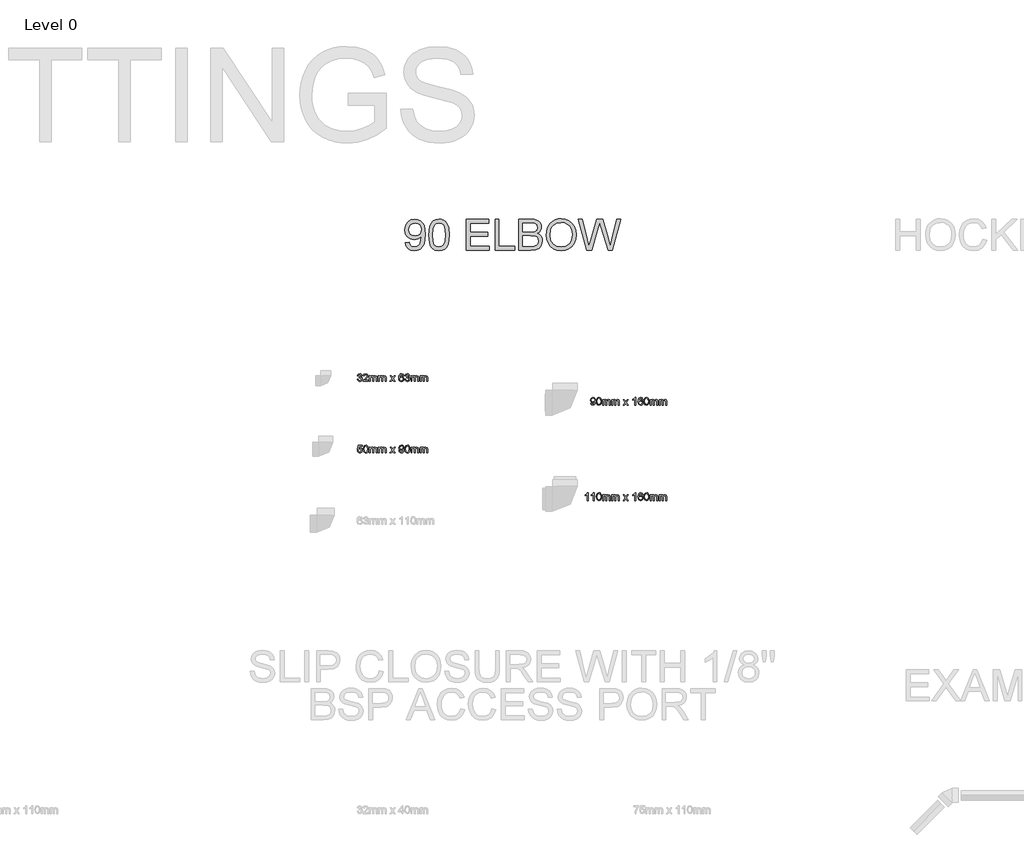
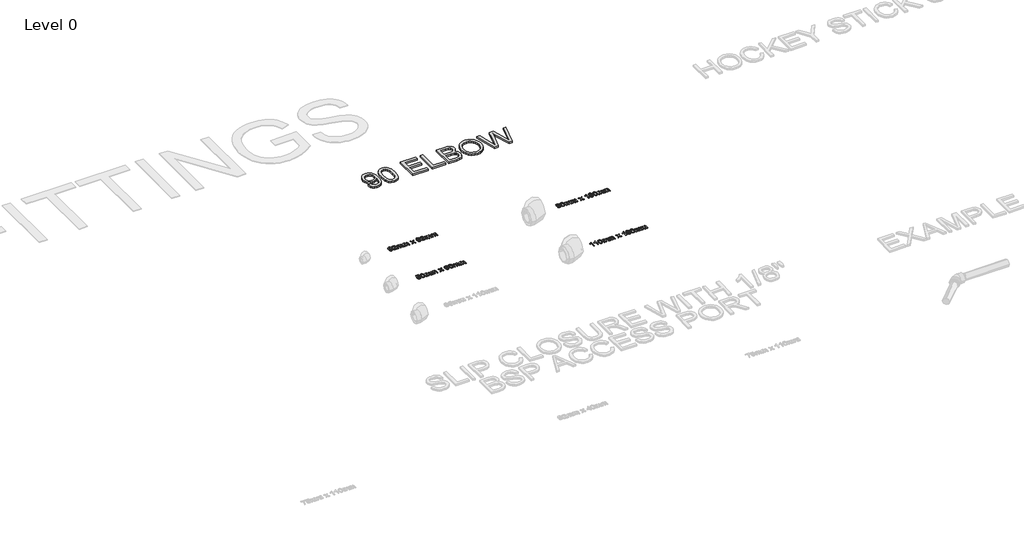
# One storey, part 17 of 21: 5 proxies.
"""IFC4 building model written with IfcOpenShell, lengths in millimetres."""

from ifc_helpers import new_model, si_unit, origin, origin_with_axes, place, context, project, spatial, polyline, outline, extrude, element, save

model = new_model("IFC4")

# Units and contexts
model_context = context("Model", 3, world=origin())
ifc_project = project(units=[si_unit("LENGTHUNIT", "METRE", prefix="MILLI")], contexts=[model_context])

# Site, building, storey
site = spatial("IfcSite", under=ifc_project)
building = spatial("IfcBuilding", under=site)
storey = spatial("IfcBuildingStorey", under=building, Name="Level 0", Elevation=0.0)

# Proxies
placement = place(None, origin())
element("IfcBuildingElementProxy", 1, Name="200mm Arial", ObjectType="200mm Arial", at=placement, inside=storey, context=model_context, shape_type="SweptSolid", body=[
    extrude(outline(polyline([(-2928.8657011, -1502.983108), (-2903.7516236, -1499.8438483), (-2899.459667, -1514.0992756), (-2892.4699091, -1523.8052289), (-2882.9540281, -1529.3786412), (-2871.0837024, -1531.2364452), (-2850.7520908, -1526.4539793), (-2836.9687787, -1513.6762113), (-2828.7527475, -1491.8485463), (-2825.1229785, -1462.7122923), (-2825.2701313, -1457.807199), (-2833.9705405, -1468.4267259), (-2845.3564882, -1476.8389609), (-2858.6063714, -1482.3204026), (-2872.8985869, -1484.1475499), (-2895.7992411, -1479.683915), (-2914.8616598, -1466.2930104), (-2927.7191356, -1445.6057795), (-2932.0049608, -1419.2531659), (-2927.5106691, -1392.0298983), (-2914.027794, -1370.6927425), (-2893.7758901, -1356.8971677), (-2868.9745123, -1352.2986428), (-2850.2431874, -1354.9228677), (-2833.1918569, -1362.7955424), (-2818.9302982, -1375.5242594), (-2808.5682887, -1392.7166113), (-2802.2591125, -1416.4817882), (-2800.1560537, -1448.9289802), (-2802.2529811, -1483.3320781), (-2808.5437632, -1509.923815), (-2818.9732178, -1529.9059387), (-2833.4861625, -1544.4801971), (-2851.457198, -1553.3829414), (-2872.2609248, -1556.3505228), (-2893.7329706, -1552.8495125), (-2910.8640088, -1542.3464815), (-2922.8446991, -1525.5036175), (-2928.8657011, -1502.983108)]), holes=[polyline([(-2825.2701313, -1418.6645547), (-2827.9801953, -1401.6438811), (-2836.1103874, -1388.547282), (-2848.7287398, -1380.1963608), (-2864.9032849, -1377.4127203), (-2881.6787039, -1380.4109586), (-2895.1186594, -1389.4056734), (-2903.9478273, -1403.1705914), (-2906.8908833, -1420.4794392), (-2904.1072428, -1435.9979281), (-2895.7563215, -1448.3158435), (-2882.6474598, -1456.3540651), (-2865.5899979, -1459.0334723), (-2849.5442116, -1456.3540651), (-2836.6254222, -1448.3158435), (-2828.108954, -1435.5442069), (-2825.2701313, -1418.6645547)])]), origin_with_axes(), (0.0, 0.0, 1.0), 15.0),
    extrude(outline(polyline([(-2778.1812359, -1454.3736337), (-2776.3356945, -1422.214616), (-2770.7990705, -1396.5671095), (-2761.6265461, -1377.038707), (-2748.8733036, -1363.2370008), (-2732.4473725, -1355.0332323), (-2712.2567824, -1352.2986428), (-2696.7812131, -1353.9173236), (-2682.9243246, -1358.7733659), (-2671.3360418, -1366.6766974), (-2662.6662894, -1377.4372458), (-2650.8940656, -1407.162111), (-2646.3323288, -1454.3736337), (-2648.1594761, -1486.3487105), (-2653.6409178, -1511.9349032), (-2662.7582599, -1531.4816999), (-2675.4931083, -1545.3385884), (-2691.9558276, -1553.5975392), (-2712.2567824, -1556.3505228), (-2738.3518785, -1551.5680568), (-2758.1684553, -1537.220659), (-2766.9240468, -1522.091512), (-2773.1780408, -1503.2406254), (-2778.1812359, -1454.3736337)]), holes=[polyline([(-2753.0671583, -1454.3245828), (-2750.1241024, -1493.8289777), (-2741.2949345, -1516.6928437), (-2728.1492845, -1527.6005449), (-2712.2567824, -1531.2364452), (-2696.3642802, -1527.5882821), (-2683.2186302, -1516.6437928), (-2674.3894623, -1493.767664), (-2671.4464064, -1454.3245828), (-2674.2913604, -1415.709236), (-2682.8262227, -1392.6675604), (-2695.9473472, -1381.2264303), (-2712.5510879, -1377.4127203), (-2728.2719119, -1380.7727092), (-2740.902527, -1390.8526759), (-2750.0260005, -1415.3290913), (-2753.0671583, -1454.3245828)])]), origin_with_axes(), (0.0, 0.0, 1.0), 15.0),
    extrude(outline(polyline([(-2536.4582396, -1553.2112631), (-2536.4582396, -1352.2986428), (-2392.0522937, -1352.2986428), (-2392.0522937, -1377.4127203), (-2511.3441621, -1377.4127203), (-2511.3441621, -1437.0586545), (-2398.3308131, -1437.0586545), (-2398.3308131, -1462.172732), (-2511.3441621, -1462.172732), (-2511.3441621, -1528.0971856), (-2388.9130341, -1528.0971856), (-2388.9130341, -1553.2112631), (-2536.4582396, -1553.2112631)])), origin_with_axes(), (0.0, 0.0, 1.0), 15.0),
    extrude(outline(polyline([(-2351.2419178, -1553.2112631), (-2351.2419178, -1352.2986428), (-2326.1278402, -1352.2986428), (-2326.1278402, -1528.0971856), (-2225.6715301, -1528.0971856), (-2225.6715301, -1553.2112631), (-2351.2419178, -1553.2112631)])), origin_with_axes(), (0.0, 0.0, 1.0), 15.0),
    extrude(outline(polyline([(-2197.4181928, -1553.2112631), (-2197.4181928, -1352.2986428), (-2120.751585, -1352.2986428), (-2099.6658153, -1353.7763021), (-2083.2030961, -1358.2092802), (-2070.5847436, -1365.7079415), (-2061.0320745, -1376.3826507), (-2055.0172039, -1388.9396895), (-2053.012247, -1402.0853395), (-2054.6983728, -1414.1825257), (-2059.7567502, -1425.5562108), (-2068.2241675, -1435.5074187), (-2080.1374128, -1443.3371739), (-2065.9065109, -1450.7683902), (-2055.3912172, -1462.0746302), (-2048.8981, -1476.5078671), (-2046.7337276, -1493.3200743), (-2052.644365, -1520.3226127), (-2067.2860684, -1539.5505783), (-2089.1382589, -1549.7531723), (-2121.3401962, -1553.2112631), (-2197.4181928, -1553.2112631)]), holes=[polyline([(-2172.3041153, -1433.9193948), (-2126.4414932, -1433.9193948), (-2099.659684, -1431.7611537), (-2083.5464526, -1422.466002), (-2078.1263245, -1406.107516), (-2083.1785706, -1389.7245044), (-2097.6485957, -1380.0369452), (-2129.9241095, -1377.4127203), (-2172.3041153, -1377.4127203), (-2172.3041153, -1433.9193948)]), polyline([(-2172.3041153, -1528.0971856), (-2120.800636, -1528.0971856), (-2102.1612815, -1527.1161669), (-2086.3914067, -1521.6469879), (-2075.943558, -1510.4879007), (-2071.8478051, -1493.5653289), (-2076.6547966, -1474.0430577), (-2082.95171, -1466.9858548), (-2092.2284677, -1462.3934612), (-2123.2531826, -1459.0334723), (-2172.3041153, -1459.0334723), (-2172.3041153, -1528.0971856)])]), origin_with_axes(), (0.0, 0.0, 1.0), 15.0),
    extrude(outline(polyline([(-2021.6196501, -1455.4037033), (-2019.945787, -1431.8377958), (-2014.9241978, -1410.975821), (-2006.5548824, -1392.8177789), (-1994.8378408, -1377.3636694), (-1980.4751146, -1365.0242941), (-1964.1687452, -1356.2104547), (-1945.9187325, -1350.922151), (-1925.7250767, -1349.1593831), (-1899.3724631, -1352.4703211), (-1875.7421763, -1362.4031349), (-1856.1218032, -1378.2588489), (-1841.7989308, -1399.3384872), (-1833.0433393, -1424.624243), (-1830.1248088, -1453.0983095), (-1833.1966235, -1481.9525206), (-1842.4120675, -1507.5938957), (-1857.2622374, -1528.7103222), (-1877.2382297, -1543.9896877), (-1900.6661814, -1553.260314), (-1925.8722295, -1556.3505228), (-1952.6295132, -1552.9353516), (-1976.3946901, -1542.689838), (-1995.9660123, -1526.5398184), (-2010.1417318, -1505.4111292), (-2018.7501705, -1481.1002607), (-2021.6196501, -1455.4037033)]), holes=[polyline([(-1996.5055725, -1455.648958), (-1991.4839833, -1487.0783431), (-1976.4192156, -1511.027461), (-1953.7760788, -1526.1841992), (-1926.0193823, -1531.2364452), (-1897.8580155, -1526.1351482), (-1875.1780905, -1510.8312572), (-1866.4546887, -1499.5587398), (-1860.2236874, -1486.1463754), (-1855.2388864, -1452.9021057), (-1857.372602, -1430.6697705), (-1863.7737487, -1411.4540676), (-1874.2767796, -1395.7393751), (-1888.7161479, -1384.0100708), (-1906.1353604, -1376.7076132), (-1925.5779239, -1374.2734606), (-1952.592725, -1378.9639561), (-1975.5608243, -1393.0354424), (-1984.7241516, -1403.9845303), (-1991.2693855, -1418.0698122), (-1996.5055725, -1455.648958)])]), origin_with_axes(), (0.0, 0.0, 1.0), 15.0),
    extrude(outline(polyline([(-1759.6386186, -1553.2112631), (-1814.4285104, -1352.2986428), (-1788.5296179, -1352.2986428), (-1756.7446135, -1484.3437536), (-1746.934427, -1525.1050787), (-1736.4375274, -1489.0526431), (-1696.6081701, -1352.2986428), (-1659.2804103, -1352.2986428), (-1630.34036, -1451.4305778), (-1608.8070006, -1525.1050787), (-1599.2911196, -1485.520976), (-1567.2118096, -1352.2986428), (-1541.3129172, -1352.2986428), (-1596.1518599, -1553.2112631), (-1622.9827201, -1553.2112631), (-1671.150736, -1398.2103158), (-1677.8707138, -1376.5788545), (-1685.4245574, -1402.6248997), (-1729.3251422, -1553.2112631), (-1759.6386186, -1553.2112631)])), origin_with_axes(), (0.0, 0.0, 1.0), 15.0),
])
element("IfcBuildingElementProxy", 2, Name="50mm", ObjectType="50mm", at=placement, inside=storey, context=model_context, shape_type="SweptSolid", body=[
    extrude(outline(polyline([(-3238.2285688, -2383.2605095), (-3231.9500494, -2382.4756946), (-3228.4858273, -2389.0853078), (-3222.0049728, -2391.1086588), (-3214.3775528, -2388.3250183), (-3211.5448614, -2381.4333623), (-3214.3530273, -2374.9402451), (-3221.4899381, -2372.3712025), (-3225.8922593, -2373.0579155), (-3225.1932835, -2366.7793962), (-3217.0630914, -2365.0503508), (-3213.8993062, -2359.5075954), (-3216.1924373, -2354.5963707), (-3222.1030747, -2352.6527275), (-3228.0872885, -2354.6147648), (-3231.1652345, -2360.5008768), (-3237.4437539, -2359.7160618), (-3232.3056687, -2349.8690871), (-3222.3238039, -2346.3742082), (-3214.7515662, -2348.0971222), (-3209.4540654, -2352.8060117), (-3207.6207868, -2359.1397134), (-3209.3620949, -2364.9277234), (-3214.5124429, -2369.08479), (-3207.6698378, -2373.3767466), (-3205.2663421, -2381.5437269), (-3210.0733335, -2392.7763905), (-3222.225702, -2397.3871782), (-3233.2376364, -2393.4508408), (-3238.2285688, -2383.2605095)])), origin_with_axes(), (0.0, 0.0, 1.0), 5.0),
    extrude(outline(polyline([(-3167.5952258, -2390.3238438), (-3167.5952258, -2396.6023632), (-3200.5574525, -2396.6023632), (-3199.8830022, -2392.2736184), (-3196.0692922, -2385.6088229), (-3188.2088802, -2378.3308908), (-3177.3686241, -2367.8707794), (-3174.6585601, -2360.7583942), (-3177.2153399, -2355.0010409), (-3183.8923981, -2352.6527275), (-3190.8514992, -2354.9458586), (-3193.4941182, -2361.2856917), (-3199.7726376, -2360.5008768), (-3194.9595148, -2349.9917144), (-3183.7575081, -2346.3742082), (-3172.5187131, -2350.3963846), (-3168.3800407, -2360.3782494), (-3169.4959494, -2366.3318064), (-3173.2054262, -2372.4876984), (-3182.200141, -2381.0900058), (-3189.4228908, -2387.1294019), (-3192.2555822, -2390.3238438), (-3167.5952258, -2390.3238438)])), origin_with_axes(), (0.0, 0.0, 1.0), 5.0),
    extrude(outline(polyline([(-3159.7470765, -2396.6023632), (-3159.7470765, -2359.7160618), (-3153.4685571, -2359.7160618), (-3153.4685571, -2365.7861148), (-3149.1520751, -2360.8135765), (-3143.0084457, -2358.9312469), (-3136.7176636, -2360.8503647), (-3133.2595729, -2366.2275732), (-3128.360611, -2360.7553285), (-3122.1740621, -2358.9312469), (-3113.9641622, -2361.9662734), (-3111.0885513, -2371.3166074), (-3111.0885513, -2396.6023632), (-3117.3670707, -2396.6023632), (-3117.3670707, -2374.0144087), (-3117.9495505, -2368.7720903), (-3120.0587406, -2366.190785), (-3123.6455901, -2365.2097663), (-3129.8198762, -2367.7236266), (-3132.2785542, -2375.7802423), (-3132.2785542, -2396.6023632), (-3138.5570736, -2396.6023632), (-3138.5570736, -2373.3154329), (-3140.0102075, -2367.2331173), (-3144.7742793, -2365.2097663), (-3149.4218552, -2366.558667), (-3152.512064, -2370.507267), (-3153.4685571, -2377.999797), (-3153.4685571, -2396.6023632), (-3159.7470765, -2396.6023632)])), origin_with_axes(), (0.0, 0.0, 1.0), 5.0),
    extrude(outline(polyline([(-3101.6707722, -2396.6023632), (-3101.6707722, -2359.7160618), (-3095.3922528, -2359.7160618), (-3095.3922528, -2365.7861148), (-3091.0757708, -2360.8135765), (-3084.9321414, -2358.9312469), (-3078.6413593, -2360.8503647), (-3075.1832686, -2366.2275732), (-3070.2843067, -2360.7553285), (-3064.0977578, -2358.9312469), (-3055.8878579, -2361.9662734), (-3053.012247, -2371.3166074), (-3053.012247, -2396.6023632), (-3059.2907664, -2396.6023632), (-3059.2907664, -2374.0144087), (-3059.8732462, -2368.7720903), (-3061.9824363, -2366.190785), (-3065.5692858, -2365.2097663), (-3071.7435719, -2367.7236266), (-3074.2022499, -2375.7802423), (-3074.2022499, -2396.6023632), (-3080.4807693, -2396.6023632), (-3080.4807693, -2373.3154329), (-3081.9339032, -2367.2331173), (-3086.697975, -2365.2097663), (-3091.3455509, -2366.558667), (-3094.4357597, -2370.507267), (-3095.3922528, -2377.999797), (-3095.3922528, -2396.6023632), (-3101.6707722, -2396.6023632)])), origin_with_axes(), (0.0, 0.0, 1.0), 5.0),
    extrude(outline(polyline([(-3027.8981695, -2396.6023632), (-3014.4827394, -2378.0611107), (-3027.1133545, -2359.7160618), (-3019.5595109, -2359.7160618), (-3013.4649325, -2368.5452297), (-3010.6199784, -2372.714559), (-3008.155169, -2369.3055192), (-3001.2144621, -2359.7160618), (-2993.6606184, -2359.7160618), (-3006.9288957, -2378.0611107), (-2994.1511278, -2396.6023632), (-3001.7049714, -2396.6023632), (-3009.3937051, -2385.4555388), (-3010.8039194, -2383.4199251), (-3020.3443258, -2396.6023632), (-3027.8981695, -2396.6023632)])), origin_with_axes(), (0.0, 0.0, 1.0), 5.0),
    extrude(outline(polyline([(-2938.4292682, -2359.7160618), (-2944.7077876, -2360.5008768), (-2947.0867578, -2355.2646897), (-2953.37754, -2352.6527275), (-2959.0429227, -2354.1733065), (-2963.3287479, -2359.8816087), (-2965.1129756, -2371.0713528), (-2959.5763516, -2366.0620263), (-2952.7153524, -2364.4249514), (-2942.0467745, -2368.900849), (-2937.6444533, -2380.4646064), (-2939.7168552, -2389.1282274), (-2945.4190261, -2395.2595939), (-2953.6473201, -2397.3871782), (-2966.4434822, -2391.7463209), (-2970.1544918, -2384.2783164), (-2971.391495, -2373.1560174), (-2970.0180689, -2360.6510953), (-2965.8977905, -2352.1009045), (-2960.2722617, -2347.8058823), (-2952.9851325, -2346.3742082), (-2943.0645814, -2349.918138), (-2938.4292682, -2359.7160618)]), holes=[polyline([(-2965.1129756, -2380.3665045), (-2963.6598417, -2385.8050267), (-2959.7970808, -2389.7536268), (-2954.1378294, -2391.1086588), (-2946.73727, -2388.3004929), (-2943.9229727, -2380.6730728), (-2946.7004818, -2373.3706152), (-2954.3953468, -2370.7034708), (-2961.99211, -2373.3706152), (-2965.1129756, -2380.3665045)])]), origin_with_axes(), (0.0, 0.0, 1.0), 5.0),
    extrude(outline(polyline([(-2932.1507488, -2383.2605095), (-2925.8722295, -2382.4756946), (-2922.4080073, -2389.0853078), (-2915.9271529, -2391.1086588), (-2908.2997328, -2388.3250183), (-2905.4670415, -2381.4333623), (-2908.2752074, -2374.9402451), (-2915.4121181, -2372.3712025), (-2919.8144393, -2373.0579155), (-2919.1154635, -2366.7793962), (-2910.9852714, -2365.0503508), (-2907.8214862, -2359.5075954), (-2910.1146173, -2354.5963707), (-2916.0252547, -2352.6527275), (-2922.0094685, -2354.6147648), (-2925.0874145, -2360.5008768), (-2931.3659339, -2359.7160618), (-2926.2278487, -2349.8690871), (-2916.2459839, -2346.3742082), (-2908.6737462, -2348.0971222), (-2903.3762455, -2352.8060117), (-2901.5429668, -2359.1397134), (-2903.284275, -2364.9277234), (-2908.4346229, -2369.08479), (-2901.5920178, -2373.3767466), (-2899.1885221, -2381.5437269), (-2903.9955135, -2392.7763905), (-2916.1478821, -2397.3871782), (-2927.1598164, -2393.4508408), (-2932.1507488, -2383.2605095)])), origin_with_axes(), (0.0, 0.0, 1.0), 5.0),
    extrude(outline(polyline([(-2892.1251878, -2396.6023632), (-2892.1251878, -2359.7160618), (-2885.8466684, -2359.7160618), (-2885.8466684, -2365.7861148), (-2881.5301863, -2360.8135765), (-2875.386557, -2358.9312469), (-2869.0957749, -2360.8503647), (-2865.6376841, -2366.2275732), (-2860.7387222, -2360.7553285), (-2854.5521733, -2358.9312469), (-2846.3422735, -2361.9662734), (-2843.4666625, -2371.3166074), (-2843.4666625, -2396.6023632), (-2849.7451819, -2396.6023632), (-2849.7451819, -2374.0144087), (-2850.3276618, -2368.7720903), (-2852.4368519, -2366.190785), (-2856.0237013, -2365.2097663), (-2862.1979875, -2367.7236266), (-2864.6566655, -2375.7802423), (-2864.6566655, -2396.6023632), (-2870.9351848, -2396.6023632), (-2870.9351848, -2373.3154329), (-2872.3883187, -2367.2331173), (-2877.1523906, -2365.2097663), (-2881.7999664, -2366.558667), (-2884.8901752, -2370.507267), (-2885.8466684, -2377.999797), (-2885.8466684, -2396.6023632), (-2892.1251878, -2396.6023632)])), origin_with_axes(), (0.0, 0.0, 1.0), 5.0),
    extrude(outline(polyline([(-2834.0488835, -2396.6023632), (-2834.0488835, -2359.7160618), (-2827.7703641, -2359.7160618), (-2827.7703641, -2365.7861148), (-2823.453882, -2360.8135765), (-2817.3102527, -2358.9312469), (-2811.0194706, -2360.8503647), (-2807.5613798, -2366.2275732), (-2802.6624179, -2360.7553285), (-2796.475869, -2358.9312469), (-2788.2659692, -2361.9662734), (-2785.3903582, -2371.3166074), (-2785.3903582, -2396.6023632), (-2791.6688776, -2396.6023632), (-2791.6688776, -2374.0144087), (-2792.2513574, -2368.7720903), (-2794.3605476, -2366.190785), (-2797.947397, -2365.2097663), (-2804.1216832, -2367.7236266), (-2806.5803612, -2375.7802423), (-2806.5803612, -2396.6023632), (-2812.8588805, -2396.6023632), (-2812.8588805, -2373.3154329), (-2814.3120144, -2367.2331173), (-2819.0760863, -2365.2097663), (-2823.7236621, -2366.558667), (-2826.8138709, -2370.507267), (-2827.7703641, -2377.999797), (-2827.7703641, -2396.6023632), (-2834.0488835, -2396.6023632)])), origin_with_axes(), (0.0, 0.0, 1.0), 5.0),
])
element("IfcBuildingElementProxy", 3, Name="50mm", ObjectType="50mm", at=placement, inside=storey, context=model_context, shape_type="SweptSolid", body=[
    extrude(outline(polyline([(-3238.2285688, -2843.2605095), (-3231.9500494, -2842.4756946), (-3228.7862643, -2848.9442864), (-3222.225702, -2851.1086588), (-3214.3530273, -2848.0981578), (-3211.5448614, -2840.1089871), (-3214.1752177, -2832.6532453), (-3222.1276002, -2829.9186558), (-3227.6396987, -2831.0100391), (-3231.1652345, -2833.8427305), (-3237.4437539, -2833.0579155), (-3231.9500494, -2807.1590231), (-3207.6207868, -2807.1590231), (-3207.6207868, -2813.4375425), (-3226.8732779, -2813.4375425), (-3229.5588165, -2827.2699055), (-3220.3740293, -2823.6401365), (-3209.6380064, -2828.1405595), (-3205.2663421, -2839.7165797), (-3209.2026794, -2851.3661762), (-3214.8557994, -2855.8819277), (-3222.2502275, -2857.3871782), (-3233.3296069, -2853.5182858), (-3238.2285688, -2843.2605095)])), origin_with_axes(), (0.0, 0.0, 1.0), 5.0),
    extrude(outline(polyline([(-3199.7726376, -2831.8929559), (-3197.9270963, -2817.4413248), (-3192.4456545, -2809.1087977), (-3183.2915242, -2806.3742082), (-3175.9584098, -2807.9928889), (-3170.893901, -2812.6588589), (-3167.950845, -2820.0900752), (-3166.8104108, -2831.8929559), (-3168.6375581, -2846.2832733), (-3174.1006057, -2854.6341946), (-3183.2915242, -2857.3871782), (-3194.7694425, -2852.6047122), (-3198.5218388, -2844.1097038), (-3199.7726376, -2831.8929559)]), holes=[polyline([(-3193.4941182, -2831.8806932), (-3190.5510623, -2847.4727584), (-3183.2915242, -2851.1086588), (-3176.0319862, -2847.4604957), (-3173.0889302, -2831.8806932), (-3175.9338843, -2816.4664376), (-3183.3651006, -2812.6527275), (-3190.4529604, -2816.0127164), (-3193.4941182, -2831.8806932)])]), origin_with_axes(), (0.0, 0.0, 1.0), 5.0),
    extrude(outline(polyline([(-3159.7470765, -2856.6023632), (-3159.7470765, -2819.7160618), (-3153.4685571, -2819.7160618), (-3153.4685571, -2825.7861148), (-3149.1520751, -2820.8135765), (-3143.0084457, -2818.9312469), (-3136.7176636, -2820.8503647), (-3133.2595729, -2826.2275732), (-3128.360611, -2820.7553285), (-3122.1740621, -2818.9312469), (-3113.9641622, -2821.9662734), (-3111.0885513, -2831.3166074), (-3111.0885513, -2856.6023632), (-3117.3670707, -2856.6023632), (-3117.3670707, -2834.0144087), (-3117.9495505, -2828.7720903), (-3120.0587406, -2826.190785), (-3123.6455901, -2825.2097663), (-3129.8198762, -2827.7236266), (-3132.2785542, -2835.7802423), (-3132.2785542, -2856.6023632), (-3138.5570736, -2856.6023632), (-3138.5570736, -2833.3154329), (-3140.0102075, -2827.2331173), (-3144.7742793, -2825.2097663), (-3149.4218552, -2826.558667), (-3152.512064, -2830.507267), (-3153.4685571, -2837.999797), (-3153.4685571, -2856.6023632), (-3159.7470765, -2856.6023632)])), origin_with_axes(), (0.0, 0.0, 1.0), 5.0),
    extrude(outline(polyline([(-3101.6707722, -2856.6023632), (-3101.6707722, -2819.7160618), (-3095.3922528, -2819.7160618), (-3095.3922528, -2825.7861148), (-3091.0757708, -2820.8135765), (-3084.9321414, -2818.9312469), (-3078.6413593, -2820.8503647), (-3075.1832686, -2826.2275732), (-3070.2843067, -2820.7553285), (-3064.0977578, -2818.9312469), (-3055.8878579, -2821.9662734), (-3053.012247, -2831.3166074), (-3053.012247, -2856.6023632), (-3059.2907664, -2856.6023632), (-3059.2907664, -2834.0144087), (-3059.8732462, -2828.7720903), (-3061.9824363, -2826.190785), (-3065.5692858, -2825.2097663), (-3071.7435719, -2827.7236266), (-3074.2022499, -2835.7802423), (-3074.2022499, -2856.6023632), (-3080.4807693, -2856.6023632), (-3080.4807693, -2833.3154329), (-3081.9339032, -2827.2331173), (-3086.697975, -2825.2097663), (-3091.3455509, -2826.558667), (-3094.4357597, -2830.507267), (-3095.3922528, -2837.999797), (-3095.3922528, -2856.6023632), (-3101.6707722, -2856.6023632)])), origin_with_axes(), (0.0, 0.0, 1.0), 5.0),
    extrude(outline(polyline([(-3027.8981695, -2856.6023632), (-3014.4827394, -2838.0611107), (-3027.1133545, -2819.7160618), (-3019.5595109, -2819.7160618), (-3013.4649325, -2828.5452297), (-3010.6199784, -2832.714559), (-3008.155169, -2829.3055192), (-3001.2144621, -2819.7160618), (-2993.6606184, -2819.7160618), (-3006.9288957, -2838.0611107), (-2994.1511278, -2856.6023632), (-3001.7049714, -2856.6023632), (-3009.3937051, -2845.4555388), (-3010.8039194, -2843.4199251), (-3020.3443258, -2856.6023632), (-3027.8981695, -2856.6023632)])), origin_with_axes(), (0.0, 0.0, 1.0), 5.0),
    extrude(outline(polyline([(-2969.8218652, -2844.0453245), (-2963.5433458, -2843.2605095), (-2960.7229171, -2849.2508547), (-2955.3763655, -2851.1086588), (-2950.2934626, -2849.9130423), (-2946.8476346, -2846.7186003), (-2944.7936267, -2841.261684), (-2943.8861845, -2833.9776205), (-2948.9445619, -2837.5092877), (-2955.8300866, -2839.3364349), (-2966.3208548, -2834.8728), (-2970.6066801, -2823.1128389), (-2966.1123884, -2810.9727331), (-2954.8490679, -2806.3742082), (-2945.9034041, -2808.9984331), (-2939.747512, -2816.4787003), (-2937.6444533, -2830.5317925), (-2939.7413807, -2845.7805012), (-2945.9769805, -2854.4195967), (-2955.6706711, -2857.3871782), (-2965.3214421, -2853.8861678), (-2969.8218652, -2844.0453245)]), holes=[polyline([(-2943.9229727, -2822.9656861), (-2946.6330367, -2815.436368), (-2953.8312611, -2812.6527275), (-2961.3851047, -2815.6509658), (-2964.3281607, -2823.4194073), (-2961.5445203, -2830.3785083), (-2954.0029394, -2833.0579155), (-2946.7617954, -2830.3785083), (-2943.9229727, -2822.9656861)])]), origin_with_axes(), (0.0, 0.0, 1.0), 5.0),
    extrude(outline(polyline([(-2932.1507488, -2831.8929559), (-2930.3052075, -2817.4413248), (-2924.8237658, -2809.1087977), (-2915.6696355, -2806.3742082), (-2908.336521, -2807.9928889), (-2903.2720122, -2812.6588589), (-2900.3289563, -2820.0900752), (-2899.1885221, -2831.8929559), (-2901.0156693, -2846.2832733), (-2906.4787169, -2854.6341946), (-2915.6696355, -2857.3871782), (-2927.1475537, -2852.6047122), (-2930.8999501, -2844.1097038), (-2932.1507488, -2831.8929559)]), holes=[polyline([(-2925.8722295, -2831.8806932), (-2922.9291735, -2847.4727584), (-2915.6696355, -2851.1086588), (-2908.4100974, -2847.4604957), (-2905.4670415, -2831.8806932), (-2908.3119956, -2816.4664376), (-2915.7432119, -2812.6527275), (-2922.8310716, -2816.0127164), (-2925.8722295, -2831.8806932)])]), origin_with_axes(), (0.0, 0.0, 1.0), 5.0),
    extrude(outline(polyline([(-2892.1251878, -2856.6023632), (-2892.1251878, -2819.7160618), (-2885.8466684, -2819.7160618), (-2885.8466684, -2825.7861148), (-2881.5301863, -2820.8135765), (-2875.386557, -2818.9312469), (-2869.0957749, -2820.8503647), (-2865.6376841, -2826.2275732), (-2860.7387222, -2820.7553285), (-2854.5521733, -2818.9312469), (-2846.3422735, -2821.9662734), (-2843.4666625, -2831.3166074), (-2843.4666625, -2856.6023632), (-2849.7451819, -2856.6023632), (-2849.7451819, -2834.0144087), (-2850.3276618, -2828.7720903), (-2852.4368519, -2826.190785), (-2856.0237013, -2825.2097663), (-2862.1979875, -2827.7236266), (-2864.6566655, -2835.7802423), (-2864.6566655, -2856.6023632), (-2870.9351848, -2856.6023632), (-2870.9351848, -2833.3154329), (-2872.3883187, -2827.2331173), (-2877.1523906, -2825.2097663), (-2881.7999664, -2826.558667), (-2884.8901752, -2830.507267), (-2885.8466684, -2837.999797), (-2885.8466684, -2856.6023632), (-2892.1251878, -2856.6023632)])), origin_with_axes(), (0.0, 0.0, 1.0), 5.0),
    extrude(outline(polyline([(-2834.0488835, -2856.6023632), (-2834.0488835, -2819.7160618), (-2827.7703641, -2819.7160618), (-2827.7703641, -2825.7861148), (-2823.453882, -2820.8135765), (-2817.3102527, -2818.9312469), (-2811.0194706, -2820.8503647), (-2807.5613798, -2826.2275732), (-2802.6624179, -2820.7553285), (-2796.475869, -2818.9312469), (-2788.2659692, -2821.9662734), (-2785.3903582, -2831.3166074), (-2785.3903582, -2856.6023632), (-2791.6688776, -2856.6023632), (-2791.6688776, -2834.0144087), (-2792.2513574, -2828.7720903), (-2794.3605476, -2826.190785), (-2797.947397, -2825.2097663), (-2804.1216832, -2827.7236266), (-2806.5803612, -2835.7802423), (-2806.5803612, -2856.6023632), (-2812.8588805, -2856.6023632), (-2812.8588805, -2833.3154329), (-2814.3120144, -2827.2331173), (-2819.0760863, -2825.2097663), (-2823.7236621, -2826.558667), (-2826.8138709, -2830.507267), (-2827.7703641, -2837.999797), (-2827.7703641, -2856.6023632), (-2834.0488835, -2856.6023632)])), origin_with_axes(), (0.0, 0.0, 1.0), 5.0),
])
element("IfcBuildingElementProxy", 4, Name="50mm", ObjectType="50mm", at=placement, inside=storey, context=model_context, shape_type="SweptSolid", body=[
    extrude(outline(polyline([(-1736.586045, -2537.3786578), (-1730.3075256, -2536.5938429), (-1727.487097, -2542.584188), (-1722.1405453, -2544.4419921), (-1717.0576424, -2543.2463756), (-1713.6118144, -2540.0519336), (-1711.5578066, -2534.5950174), (-1710.6503643, -2527.3109539), (-1715.7087417, -2530.842621), (-1722.5942664, -2532.6697683), (-1733.0850346, -2528.2061334), (-1737.3708599, -2516.4461723), (-1732.8765682, -2504.3060664), (-1721.6132478, -2499.7075415), (-1712.6675839, -2502.3317664), (-1706.5116919, -2509.8120336), (-1704.4086331, -2523.8651258), (-1706.5055605, -2539.1138345), (-1712.7411603, -2547.7529301), (-1722.4348509, -2550.7205115), (-1732.0856219, -2547.2195012), (-1736.586045, -2537.3786578)]), holes=[polyline([(-1710.6871525, -2516.2990195), (-1713.3972165, -2508.7697013), (-1720.5954409, -2505.9860609), (-1728.1492845, -2508.9842991), (-1731.0923405, -2516.7527406), (-1728.3087001, -2523.7118417), (-1720.7671192, -2526.3912489), (-1713.5259752, -2523.7118417), (-1710.6871525, -2516.2990195)])]), origin_with_axes(), (0.0, 0.0, 1.0), 5.0),
    extrude(outline(polyline([(-1698.9149287, -2525.2262892), (-1697.0693873, -2510.7746582), (-1691.5879456, -2502.442131), (-1682.4338153, -2499.7075415), (-1675.1007008, -2501.3262223), (-1670.036192, -2505.9921922), (-1667.0931361, -2513.4234085), (-1665.9527019, -2525.2262892), (-1667.7798491, -2539.6166066), (-1673.2428968, -2547.9675279), (-1682.4338153, -2550.7205115), (-1693.9117335, -2545.9380455), (-1697.6641299, -2537.4430371), (-1698.9149287, -2525.2262892)]), holes=[polyline([(-1692.6364093, -2525.2140265), (-1689.6933533, -2540.8060917), (-1682.4338153, -2544.4419921), (-1675.1742772, -2540.793829), (-1672.2312213, -2525.2140265), (-1675.0761754, -2509.7997709), (-1682.5073917, -2505.9860609), (-1689.5952514, -2509.3460498), (-1692.6364093, -2525.2140265)])]), origin_with_axes(), (0.0, 0.0, 1.0), 5.0),
    extrude(outline(polyline([(-1658.8893676, -2549.9356966), (-1658.8893676, -2513.0493952), (-1652.6108482, -2513.0493952), (-1652.6108482, -2519.1194481), (-1648.2943661, -2514.1469098), (-1642.1507368, -2512.2645803), (-1635.8599547, -2514.183698), (-1632.4018639, -2519.5609065), (-1627.502902, -2514.0886618), (-1621.3163531, -2512.2645803), (-1613.1064533, -2515.2996067), (-1610.2308424, -2524.6499408), (-1610.2308424, -2549.9356966), (-1616.5093617, -2549.9356966), (-1616.5093617, -2527.3477421), (-1617.0918416, -2522.1054236), (-1619.2010317, -2519.5241183), (-1622.7878811, -2518.5430996), (-1628.9621673, -2521.0569599), (-1631.4208453, -2529.1135756), (-1631.4208453, -2549.9356966), (-1637.6993647, -2549.9356966), (-1637.6993647, -2526.6487663), (-1639.1524985, -2520.5664506), (-1643.9165704, -2518.5430996), (-1648.5641463, -2519.8920003), (-1651.654355, -2523.8406004), (-1652.6108482, -2531.3331303), (-1652.6108482, -2549.9356966), (-1658.8893676, -2549.9356966)])), origin_with_axes(), (0.0, 0.0, 1.0), 5.0),
    extrude(outline(polyline([(-1600.8130633, -2549.9356966), (-1600.8130633, -2513.0493952), (-1594.5345439, -2513.0493952), (-1594.5345439, -2519.1194481), (-1590.2180618, -2514.1469098), (-1584.0744325, -2512.2645803), (-1577.7836504, -2514.183698), (-1574.3255596, -2519.5609065), (-1569.4265977, -2514.0886618), (-1563.2400488, -2512.2645803), (-1555.030149, -2515.2996067), (-1552.1545381, -2524.6499408), (-1552.1545381, -2549.9356966), (-1558.4330574, -2549.9356966), (-1558.4330574, -2527.3477421), (-1559.0155373, -2522.1054236), (-1561.1247274, -2519.5241183), (-1564.7115768, -2518.5430996), (-1570.885863, -2521.0569599), (-1573.344541, -2529.1135756), (-1573.344541, -2549.9356966), (-1579.6230604, -2549.9356966), (-1579.6230604, -2526.6487663), (-1581.0761942, -2520.5664506), (-1585.8402661, -2518.5430996), (-1590.4878419, -2519.8920003), (-1593.5780507, -2523.8406004), (-1594.5345439, -2531.3331303), (-1594.5345439, -2549.9356966), (-1600.8130633, -2549.9356966)])), origin_with_axes(), (0.0, 0.0, 1.0), 5.0),
    extrude(outline(polyline([(-1527.0404605, -2549.9356966), (-1513.6250304, -2531.394444), (-1526.2556456, -2513.0493952), (-1518.701802, -2513.0493952), (-1512.6072236, -2521.8785631), (-1509.7622695, -2526.0478923), (-1507.2974601, -2522.6388525), (-1500.3567531, -2513.0493952), (-1492.8029095, -2513.0493952), (-1506.0711868, -2531.394444), (-1493.2934188, -2549.9356966), (-1500.8472625, -2549.9356966), (-1508.5359962, -2538.7888721), (-1509.9462105, -2536.7532584), (-1519.4866169, -2549.9356966), (-1527.0404605, -2549.9356966)])), origin_with_axes(), (0.0, 0.0, 1.0), 5.0),
    extrude(outline(polyline([(-1446.2045234, -2549.9356966), (-1452.4830428, -2549.9356966), (-1452.4830428, -2510.7930523), (-1458.4304684, -2515.0298266), (-1465.0400816, -2518.1997431), (-1465.0400816, -2512.2645803), (-1455.8369003, -2506.3907311), (-1450.2512254, -2499.7075415), (-1446.2045234, -2499.7075415), (-1446.2045234, -2549.9356966)])), origin_with_axes(), (0.0, 0.0, 1.0), 5.0),
    extrude(outline(polyline([(-1399.1156281, -2513.0493952), (-1405.3941474, -2513.8342101), (-1407.7731177, -2508.598023), (-1414.0638998, -2505.9860609), (-1419.7292825, -2507.5066398), (-1424.0151078, -2513.2149421), (-1425.7993354, -2524.4046861), (-1420.2627114, -2519.3953596), (-1413.4017122, -2517.7582847), (-1402.7331343, -2522.2341823), (-1398.3308131, -2533.7979397), (-1400.403215, -2542.4615607), (-1406.105386, -2548.5929273), (-1414.3336799, -2550.7205115), (-1427.129842, -2545.0796542), (-1430.8408516, -2537.6116497), (-1432.0778548, -2526.4893507), (-1430.7044287, -2513.9844286), (-1426.5841504, -2505.4342379), (-1420.9586215, -2501.1392156), (-1413.6714923, -2499.7075415), (-1403.7509412, -2503.2514714), (-1399.1156281, -2513.0493952)]), holes=[polyline([(-1425.7993354, -2533.6998378), (-1424.3462016, -2539.13836), (-1420.4834406, -2543.0869601), (-1414.8241893, -2544.4419921), (-1407.4236298, -2541.6338262), (-1404.6093325, -2534.0064062), (-1407.3868416, -2526.7039486), (-1415.0817066, -2524.0368041), (-1422.6784698, -2526.7039486), (-1425.7993354, -2533.6998378)])]), origin_with_axes(), (0.0, 0.0, 1.0), 5.0),
    extrude(outline(polyline([(-1392.8371087, -2525.2262892), (-1390.9915673, -2510.7746582), (-1385.5101256, -2502.442131), (-1376.3559953, -2499.7075415), (-1369.0228809, -2501.3262223), (-1363.9583721, -2505.9921922), (-1361.0153161, -2513.4234085), (-1359.8748819, -2525.2262892), (-1361.7020291, -2539.6166066), (-1367.1650768, -2547.9675279), (-1376.3559953, -2550.7205115), (-1387.8339135, -2545.9380455), (-1391.5863099, -2537.4430371), (-1392.8371087, -2525.2262892)]), holes=[polyline([(-1386.5585893, -2525.2140265), (-1383.6155333, -2540.8060917), (-1376.3559953, -2544.4419921), (-1369.0964573, -2540.793829), (-1366.1534013, -2525.2140265), (-1368.9983554, -2509.7997709), (-1376.4295717, -2505.9860609), (-1383.5174315, -2509.3460498), (-1386.5585893, -2525.2140265)])]), origin_with_axes(), (0.0, 0.0, 1.0), 5.0),
    extrude(outline(polyline([(-1352.8115476, -2549.9356966), (-1352.8115476, -2513.0493952), (-1346.5330282, -2513.0493952), (-1346.5330282, -2519.1194481), (-1342.2165461, -2514.1469098), (-1336.0729168, -2512.2645803), (-1329.7821347, -2514.183698), (-1326.3240439, -2519.5609065), (-1321.425082, -2514.0886618), (-1315.2385332, -2512.2645803), (-1307.0286333, -2515.2996067), (-1304.1530224, -2524.6499408), (-1304.1530224, -2549.9356966), (-1310.4315418, -2549.9356966), (-1310.4315418, -2527.3477421), (-1311.0140216, -2522.1054236), (-1313.1232117, -2519.5241183), (-1316.7100611, -2518.5430996), (-1322.8843473, -2521.0569599), (-1325.3430253, -2529.1135756), (-1325.3430253, -2549.9356966), (-1331.6215447, -2549.9356966), (-1331.6215447, -2526.6487663), (-1333.0746786, -2520.5664506), (-1337.8387504, -2518.5430996), (-1342.4863263, -2519.8920003), (-1345.576535, -2523.8406004), (-1346.5330282, -2531.3331303), (-1346.5330282, -2549.9356966), (-1352.8115476, -2549.9356966)])), origin_with_axes(), (0.0, 0.0, 1.0), 5.0),
    extrude(outline(polyline([(-1294.7352433, -2549.9356966), (-1294.7352433, -2513.0493952), (-1288.4567239, -2513.0493952), (-1288.4567239, -2519.1194481), (-1284.1402418, -2514.1469098), (-1277.9966125, -2512.2645803), (-1271.7058304, -2514.183698), (-1268.2477396, -2519.5609065), (-1263.3487777, -2514.0886618), (-1257.1622289, -2512.2645803), (-1248.952329, -2515.2996067), (-1246.0767181, -2524.6499408), (-1246.0767181, -2549.9356966), (-1252.3552374, -2549.9356966), (-1252.3552374, -2527.3477421), (-1252.9377173, -2522.1054236), (-1255.0469074, -2519.5241183), (-1258.6337568, -2518.5430996), (-1264.808043, -2521.0569599), (-1267.266721, -2529.1135756), (-1267.266721, -2549.9356966), (-1273.5452404, -2549.9356966), (-1273.5452404, -2526.6487663), (-1274.9983743, -2520.5664506), (-1279.7624461, -2518.5430996), (-1284.410022, -2519.8920003), (-1287.5002307, -2523.8406004), (-1288.4567239, -2531.3331303), (-1288.4567239, -2549.9356966), (-1294.7352433, -2549.9356966)])), origin_with_axes(), (0.0, 0.0, 1.0), 5.0),
])
element("IfcBuildingElementProxy", 5, Name="50mm", ObjectType="50mm", at=placement, inside=storey, context=model_context, shape_type="SweptSolid", body=[
    extrude(outline(polyline([(-1752.2823434, -3163.2690299), (-1758.5608628, -3163.2690299), (-1758.5608628, -3124.1263856), (-1764.5082884, -3128.3631599), (-1771.1179016, -3131.5330764), (-1771.1179016, -3125.5979136), (-1761.9147203, -3119.7240644), (-1756.3290454, -3113.0408748), (-1752.2823434, -3113.0408748), (-1752.2823434, -3163.2690299)])), origin_with_axes(), (0.0, 0.0, 1.0), 5.0),
    extrude(outline(polyline([(-1713.8264122, -3163.2690299), (-1720.1049316, -3163.2690299), (-1720.1049316, -3124.1263856), (-1726.0523572, -3128.3631599), (-1732.6619704, -3131.5330764), (-1732.6619704, -3125.5979136), (-1723.4587891, -3119.7240644), (-1717.8731141, -3113.0408748), (-1713.8264122, -3113.0408748), (-1713.8264122, -3163.2690299)])), origin_with_axes(), (0.0, 0.0, 1.0), 5.0),
    extrude(outline(polyline([(-1698.9149287, -3138.5596226), (-1697.0693873, -3124.1079915), (-1691.5879456, -3115.7754643), (-1682.4338153, -3113.0408748), (-1675.1007008, -3114.6595556), (-1670.036192, -3119.3255256), (-1667.0931361, -3126.7567419), (-1665.9527019, -3138.5596226), (-1667.7798491, -3152.9499399), (-1673.2428968, -3161.3008612), (-1682.4338153, -3164.0538448), (-1693.9117335, -3159.2713789), (-1697.6641299, -3150.7763705), (-1698.9149287, -3138.5596226)]), holes=[polyline([(-1692.6364093, -3138.5473598), (-1689.6933533, -3154.139425), (-1682.4338153, -3157.7753254), (-1675.1742772, -3154.1271623), (-1672.2312213, -3138.5473598), (-1675.0761754, -3123.1331042), (-1682.5073917, -3119.3193942), (-1689.5952514, -3122.6793831), (-1692.6364093, -3138.5473598)])]), origin_with_axes(), (0.0, 0.0, 1.0), 5.0),
    extrude(outline(polyline([(-1658.8893676, -3163.2690299), (-1658.8893676, -3126.3827285), (-1652.6108482, -3126.3827285), (-1652.6108482, -3132.4527814), (-1648.2943661, -3127.4802431), (-1642.1507368, -3125.5979136), (-1635.8599547, -3127.5170313), (-1632.4018639, -3132.8942398), (-1627.502902, -3127.4219952), (-1621.3163531, -3125.5979136), (-1613.1064533, -3128.6329401), (-1610.2308424, -3137.9832741), (-1610.2308424, -3163.2690299), (-1616.5093617, -3163.2690299), (-1616.5093617, -3140.6810754), (-1617.0918416, -3135.438757), (-1619.2010317, -3132.8574516), (-1622.7878811, -3131.876433), (-1628.9621673, -3134.3902933), (-1631.4208453, -3142.446909), (-1631.4208453, -3163.2690299), (-1637.6993647, -3163.2690299), (-1637.6993647, -3139.9820996), (-1639.1524985, -3133.8997839), (-1643.9165704, -3131.876433), (-1648.5641463, -3133.2253336), (-1651.654355, -3137.1739337), (-1652.6108482, -3144.6664637), (-1652.6108482, -3163.2690299), (-1658.8893676, -3163.2690299)])), origin_with_axes(), (0.0, 0.0, 1.0), 5.0),
    extrude(outline(polyline([(-1600.8130633, -3163.2690299), (-1600.8130633, -3126.3827285), (-1594.5345439, -3126.3827285), (-1594.5345439, -3132.4527814), (-1590.2180618, -3127.4802431), (-1584.0744325, -3125.5979136), (-1577.7836504, -3127.5170313), (-1574.3255596, -3132.8942398), (-1569.4265977, -3127.4219952), (-1563.2400488, -3125.5979136), (-1555.030149, -3128.6329401), (-1552.1545381, -3137.9832741), (-1552.1545381, -3163.2690299), (-1558.4330574, -3163.2690299), (-1558.4330574, -3140.6810754), (-1559.0155373, -3135.438757), (-1561.1247274, -3132.8574516), (-1564.7115768, -3131.876433), (-1570.885863, -3134.3902933), (-1573.344541, -3142.446909), (-1573.344541, -3163.2690299), (-1579.6230604, -3163.2690299), (-1579.6230604, -3139.9820996), (-1581.0761942, -3133.8997839), (-1585.8402661, -3131.876433), (-1590.4878419, -3133.2253336), (-1593.5780507, -3137.1739337), (-1594.5345439, -3144.6664637), (-1594.5345439, -3163.2690299), (-1600.8130633, -3163.2690299)])), origin_with_axes(), (0.0, 0.0, 1.0), 5.0),
    extrude(outline(polyline([(-1527.0404605, -3163.2690299), (-1513.6250304, -3144.7277773), (-1526.2556456, -3126.3827285), (-1518.701802, -3126.3827285), (-1512.6072236, -3135.2118964), (-1509.7622695, -3139.3812257), (-1507.2974601, -3135.9721859), (-1500.3567531, -3126.3827285), (-1492.8029095, -3126.3827285), (-1506.0711868, -3144.7277773), (-1493.2934188, -3163.2690299), (-1500.8472625, -3163.2690299), (-1508.5359962, -3152.1222054), (-1509.9462105, -3150.0865917), (-1519.4866169, -3163.2690299), (-1527.0404605, -3163.2690299)])), origin_with_axes(), (0.0, 0.0, 1.0), 5.0),
    extrude(outline(polyline([(-1446.2045234, -3163.2690299), (-1452.4830428, -3163.2690299), (-1452.4830428, -3124.1263856), (-1458.4304684, -3128.3631599), (-1465.0400816, -3131.5330764), (-1465.0400816, -3125.5979136), (-1455.8369003, -3119.7240644), (-1450.2512254, -3113.0408748), (-1446.2045234, -3113.0408748), (-1446.2045234, -3163.2690299)])), origin_with_axes(), (0.0, 0.0, 1.0), 5.0),
    extrude(outline(polyline([(-1399.1156281, -3126.3827285), (-1405.3941474, -3127.1675434), (-1407.7731177, -3121.9313564), (-1414.0638998, -3119.3193942), (-1419.7292825, -3120.8399731), (-1424.0151078, -3126.5482754), (-1425.7993354, -3137.7380194), (-1420.2627114, -3132.7286929), (-1413.4017122, -3131.0916181), (-1402.7331343, -3135.5675157), (-1398.3308131, -3147.131273), (-1400.403215, -3155.794894), (-1406.105386, -3161.9262606), (-1414.3336799, -3164.0538448), (-1427.129842, -3158.4129876), (-1430.8408516, -3150.9449831), (-1432.0778548, -3139.8226841), (-1430.7044287, -3127.3177619), (-1426.5841504, -3118.7675712), (-1420.9586215, -3114.4725489), (-1413.6714923, -3113.0408748), (-1403.7509412, -3116.5848047), (-1399.1156281, -3126.3827285)]), holes=[polyline([(-1425.7993354, -3147.0331712), (-1424.3462016, -3152.4716933), (-1420.4834406, -3156.4202934), (-1414.8241893, -3157.7753254), (-1407.4236298, -3154.9671595), (-1404.6093325, -3147.3397395), (-1407.3868416, -3140.0372819), (-1415.0817066, -3137.3701374), (-1422.6784698, -3140.0372819), (-1425.7993354, -3147.0331712)])]), origin_with_axes(), (0.0, 0.0, 1.0), 5.0),
    extrude(outline(polyline([(-1392.8371087, -3138.5596226), (-1390.9915673, -3124.1079915), (-1385.5101256, -3115.7754643), (-1376.3559953, -3113.0408748), (-1369.0228809, -3114.6595556), (-1363.9583721, -3119.3255256), (-1361.0153161, -3126.7567419), (-1359.8748819, -3138.5596226), (-1361.7020291, -3152.9499399), (-1367.1650768, -3161.3008612), (-1376.3559953, -3164.0538448), (-1387.8339135, -3159.2713789), (-1391.5863099, -3150.7763705), (-1392.8371087, -3138.5596226)]), holes=[polyline([(-1386.5585893, -3138.5473598), (-1383.6155333, -3154.139425), (-1376.3559953, -3157.7753254), (-1369.0964573, -3154.1271623), (-1366.1534013, -3138.5473598), (-1368.9983554, -3123.1331042), (-1376.4295717, -3119.3193942), (-1383.5174315, -3122.6793831), (-1386.5585893, -3138.5473598)])]), origin_with_axes(), (0.0, 0.0, 1.0), 5.0),
    extrude(outline(polyline([(-1352.8115476, -3163.2690299), (-1352.8115476, -3126.3827285), (-1346.5330282, -3126.3827285), (-1346.5330282, -3132.4527814), (-1342.2165461, -3127.4802431), (-1336.0729168, -3125.5979136), (-1329.7821347, -3127.5170313), (-1326.3240439, -3132.8942398), (-1321.425082, -3127.4219952), (-1315.2385332, -3125.5979136), (-1307.0286333, -3128.6329401), (-1304.1530224, -3137.9832741), (-1304.1530224, -3163.2690299), (-1310.4315418, -3163.2690299), (-1310.4315418, -3140.6810754), (-1311.0140216, -3135.438757), (-1313.1232117, -3132.8574516), (-1316.7100611, -3131.876433), (-1322.8843473, -3134.3902933), (-1325.3430253, -3142.446909), (-1325.3430253, -3163.2690299), (-1331.6215447, -3163.2690299), (-1331.6215447, -3139.9820996), (-1333.0746786, -3133.8997839), (-1337.8387504, -3131.876433), (-1342.4863263, -3133.2253336), (-1345.576535, -3137.1739337), (-1346.5330282, -3144.6664637), (-1346.5330282, -3163.2690299), (-1352.8115476, -3163.2690299)])), origin_with_axes(), (0.0, 0.0, 1.0), 5.0),
    extrude(outline(polyline([(-1294.7352433, -3163.2690299), (-1294.7352433, -3126.3827285), (-1288.4567239, -3126.3827285), (-1288.4567239, -3132.4527814), (-1284.1402418, -3127.4802431), (-1277.9966125, -3125.5979136), (-1271.7058304, -3127.5170313), (-1268.2477396, -3132.8942398), (-1263.3487777, -3127.4219952), (-1257.1622289, -3125.5979136), (-1248.952329, -3128.6329401), (-1246.0767181, -3137.9832741), (-1246.0767181, -3163.2690299), (-1252.3552374, -3163.2690299), (-1252.3552374, -3140.6810754), (-1252.9377173, -3135.438757), (-1255.0469074, -3132.8574516), (-1258.6337568, -3131.876433), (-1264.808043, -3134.3902933), (-1267.266721, -3142.446909), (-1267.266721, -3163.2690299), (-1273.5452404, -3163.2690299), (-1273.5452404, -3139.9820996), (-1274.9983743, -3133.8997839), (-1279.7624461, -3131.876433), (-1284.410022, -3133.2253336), (-1287.5002307, -3137.1739337), (-1288.4567239, -3144.6664637), (-1288.4567239, -3163.2690299), (-1294.7352433, -3163.2690299)])), origin_with_axes(), (0.0, 0.0, 1.0), 5.0),
])

save(model, "model.ifc")
